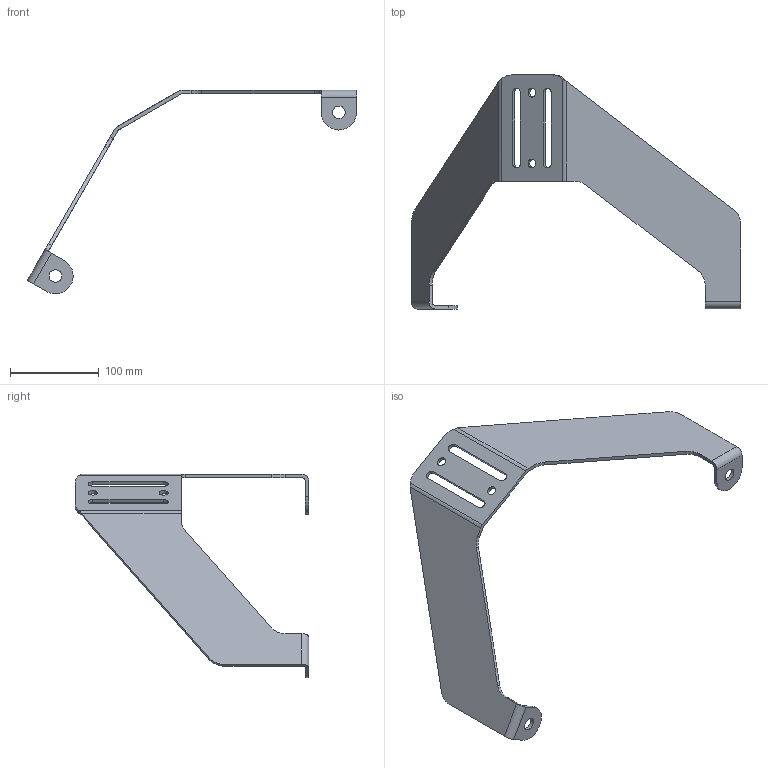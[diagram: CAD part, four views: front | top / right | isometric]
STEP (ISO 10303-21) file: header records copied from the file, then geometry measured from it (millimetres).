
FILE_DESCRIPTION(/* description */ ('FOOT FOR ALL PROFILES (1 PAIR)'),/* implementation_level */ '2;1');
FILE_NAME(/* name */ '500-1155.stp',/* time_stamp */ '2022-09-16T08:15:58+02:00',/* author */ ('PL'),/* organization */ ('CARRYLINE'),/* preprocessor_version */ 'ST-DEVELOPER v19.2',/* originating_system */ 'Autodesk Inventor 2023',/* authorisation */ '');
FILE_SCHEMA (('AUTOMOTIVE_DESIGN { 1 0 10303 214 3 1 1 }'));
Length unit declared in the file: millimetre
Products named in the file (1): 500-1155
Bounding box: 371.69 x 264 x 229.75 mm (x, y, z)
Volume: 208368.2 mm3; surface area: 112472 mm2
Topology: 1 solids, 1 shells, 54 faces, 152 edges, 100 vertices
Faces by surface type: plane 26, cylinder 26, bspline 2
Full cylindrical faces by diameter (mm): 10 x2, 14.2 x2
Entity records: 1993 total; most frequent: CARTESIAN_POINT 495, ORIENTED_EDGE 304, DIRECTION 302, EDGE_CURVE 152, AXIS2_PLACEMENT_3D 101, LINE 100, VECTOR 100, VERTEX_POINT 100
